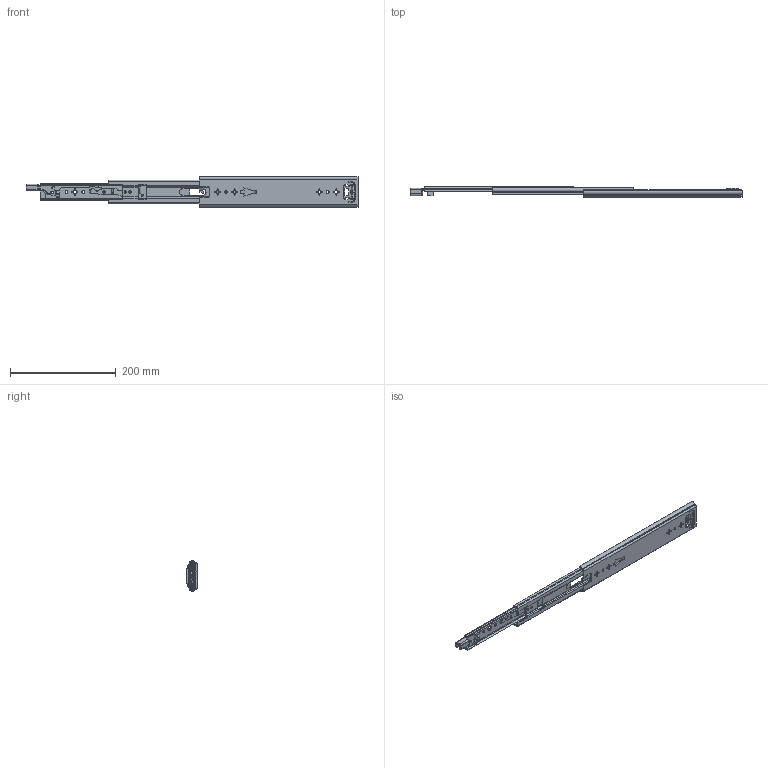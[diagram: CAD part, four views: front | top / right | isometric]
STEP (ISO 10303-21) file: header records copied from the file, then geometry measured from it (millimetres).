
FILE_DESCRIPTION((''),'2;1');
FILE_NAME('KP-57-01ZUZHUANGTU-12YOU_ASM','2023-04-01T',('jishu015'),(''),'PRO/ENGINEER BY PARAMETRIC TECHNOLOGY CORPORATION, 2010280','PRO/ENGINEER BY PARAMETRIC TECHNOLOGY CORPORATION, 2010280','');
FILE_SCHEMA(('CONFIG_CONTROL_DESIGN'));
Length unit declared in the file: millimetre
Products named in the file (21): KP-57-01WEIKE-20_____; 1057WEIJIAO11; WAIKE____________________ASM; KP-57-01ZHONGGUI-26________; ZHONGGUIPEIJIAN-20_____; ZHONGGUISUOKOU-18____; KP-57-01ZHONGGUI-26_________ASM; 1057XIAOZHUJIA11___; 1057-5-6GANZHU1___; 1057XIAOZHUJIA-14GE26_________ASM; KP-57-01NEIGUI-22______; PJ-57-08___________________; DIAOPIAN-11___________________; 50XINSUOKOU-111; 1053-3SBANJI12222; JIAO11_________________; KP-57-01NEIGUI-22_______ASM; 1053ZHUTIAO-275________; 53-5-6GANZHU1_____; 1053ZHUTIAO-175MM111_____ASM; KP-57-01ZUZHUANGTU-12YOU_ASM
Assembly tree (38 placements, depth 3):
  KP-57-01ZUZHUANGTU-12YOU_ASM
    WAIKE____________________ASM
      KP-57-01WEIKE-20_____
      1057WEIJIAO11
    KP-57-01ZHONGGUI-26_________ASM
      KP-57-01ZHONGGUI-26________
      ZHONGGUIPEIJIAN-20_____
      ZHONGGUISUOKOU-18____
    1057XIAOZHUJIA-14GE26_________ASM
      1057XIAOZHUJIA11___
      1057-5-6GANZHU1___  x16
    KP-57-01NEIGUI-22_______ASM
      KP-57-01NEIGUI-22______
      PJ-57-08___________________
      DIAOPIAN-11___________________
      50XINSUOKOU-111
      1053-3SBANJI12222
      JIAO11_________________
    1053ZHUTIAO-175MM111_____ASM  x2
      1053ZHUTIAO-275________
      53-5-6GANZHU1_____
Bounding box: 626.92 x 19 x 57.67 mm (x, y, z)
Volume: 129517.3 mm3; surface area: 137994.5 mm2
Topology: 37 solids, 37 shells, 1354 faces, 3823 edges, 2424 vertices
Faces by surface type: plane 610, cylinder 536, bspline 67, sphere 55, cone 44, extrusion 23, torus 19
Entity records: 46420 total; most frequent: CARTESIAN_POINT 12338, ORIENTED_EDGE 7218, DIRECTION 6947, EDGE_CURVE 3609, AXIS2_PLACEMENT_3D 2379, VERTEX_POINT 2332, VECTOR 2189, LINE 2166
